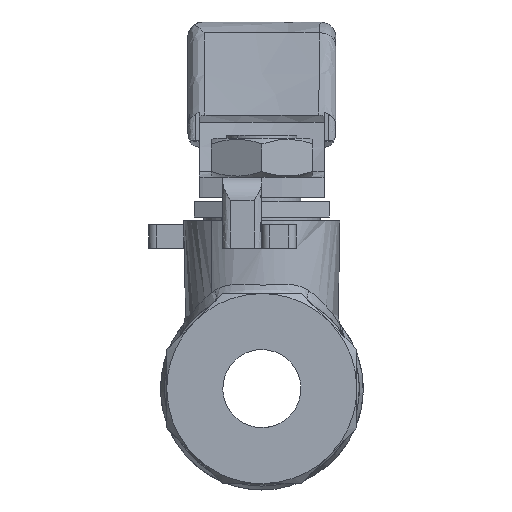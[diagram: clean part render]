
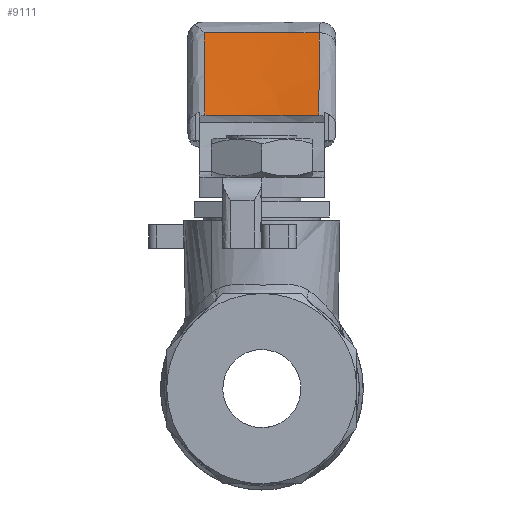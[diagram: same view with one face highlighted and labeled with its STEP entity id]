
A CAD part, left-side view. The second image highlights one B-rep face of the part: STEP entity #9111.
In plain terms, the highlighted free-form (B-spline) face has degree [1, 2] with [2, 3] control points.
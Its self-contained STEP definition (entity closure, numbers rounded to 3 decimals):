
#5013=CARTESIAN_POINT('',(28.518,7.291,35.069));
#5014=VERTEX_POINT('',#5013);
#5024=CARTESIAN_POINT('',(51.481,7.38,45.595));
#5025=VERTEX_POINT('',#5024);
#5026=CARTESIAN_POINT('',(51.481,7.38,45.595));
#5027=CARTESIAN_POINT('',(47.659,7.371,43.83));
#5028=CARTESIAN_POINT('',(43.835,7.361,42.068));
#5029=CARTESIAN_POINT('',(38.096,7.34,39.434));
#5030=CARTESIAN_POINT('',(36.182,7.333,38.557));
#5031=CARTESIAN_POINT('',(32.352,7.314,36.809));
#5032=CARTESIAN_POINT('',(30.436,7.304,35.937));
#5033=CARTESIAN_POINT('',(28.518,7.291,35.069));
#5034=B_SPLINE_CURVE_WITH_KNOTS('',3,(#5026,#5027,#5028,#5029,#5030,#5031,#5032,#5033),.UNSPECIFIED.,.F.,.U.,(4,2,2,4),(0.,0.5,0.75,1.),.UNSPECIFIED.);
#5035=EDGE_CURVE('',#5025,#5014,#5034,.T.);
#5810=CARTESIAN_POINT('',(51.481,-7.38,45.595));
#5811=VERTEX_POINT('',#5810);
#5962=CARTESIAN_POINT('',(28.518,-7.291,35.069));
#5963=VERTEX_POINT('',#5962);
#5964=CARTESIAN_POINT('',(28.518,-7.291,35.069));
#5965=CARTESIAN_POINT('',(30.436,-7.304,35.937));
#5966=CARTESIAN_POINT('',(32.352,-7.314,36.809));
#5967=CARTESIAN_POINT('',(36.182,-7.333,38.557));
#5968=CARTESIAN_POINT('',(38.096,-7.34,39.434));
#5969=CARTESIAN_POINT('',(43.835,-7.361,42.068));
#5970=CARTESIAN_POINT('',(47.659,-7.371,43.83));
#5971=CARTESIAN_POINT('',(51.481,-7.38,45.595));
#5972=B_SPLINE_CURVE_WITH_KNOTS('',3,(#5964,#5965,#5966,#5967,#5968,#5969,#5970,#5971),.UNSPECIFIED.,.F.,.U.,(4,2,2,4),(0.,0.25,0.5,1.),.UNSPECIFIED.);
#5973=EDGE_CURVE('',#5963,#5811,#5972,.T.);
#9076=CARTESIAN_POINT('',(27.786,7.839,34.806));
#9077=CARTESIAN_POINT('',(50.61,14.278,45.864));
#9078=CARTESIAN_POINT('',(29.998,-0.001,34.806));
#9079=CARTESIAN_POINT('',(54.639,-0.001,45.864));
#9080=CARTESIAN_POINT('',(27.786,-7.84,34.806));
#9081=CARTESIAN_POINT('',(50.61,-14.28,45.864));
#9089=(BOUNDED_SURFACE()B_SPLINE_SURFACE(1,2,((#9076,#9078,#9080),(#9077,#9079,#9081)),.UNSPECIFIED.,.F.,.F.,.U.)B_SPLINE_SURFACE_WITH_KNOTS((2,2),(3,3),(0.,26.167),(0.,29.105),.UNSPECIFIED.)GEOMETRIC_REPRESENTATION_ITEM()RATIONAL_B_SPLINE_SURFACE(((0.998,0.959,0.996),(0.998,0.959,0.996)))REPRESENTATION_ITEM('')SURFACE());
#9090=CARTESIAN_POINT('',(51.481,7.38,45.595));
#9091=CARTESIAN_POINT('',(51.93,4.25,45.595));
#9092=CARTESIAN_POINT('',(52.183,-0.701,45.595));
#9093=CARTESIAN_POINT('',(51.733,-5.624,45.595));
#9094=CARTESIAN_POINT('',(51.481,-7.38,45.595));
#9095=B_SPLINE_CURVE_WITH_KNOTS('',3,(#9090,#9091,#9092,#9093,#9094),.UNSPECIFIED.,.F.,.U.,(4,1,4),(0.,9.488,14.81),.UNSPECIFIED.);
#9096=EDGE_CURVE('',#5025,#5811,#9095,.T.);
#9097=ORIENTED_EDGE('',*,*,#9096,.F.);
#9098=ORIENTED_EDGE('',*,*,#5035,.T.);
#9099=CARTESIAN_POINT('',(28.518,7.291,35.069));
#9100=CARTESIAN_POINT('',(28.993,5.432,35.069));
#9101=CARTESIAN_POINT('',(29.473,2.307,35.069));
#9102=CARTESIAN_POINT('',(29.435,-2.614,35.069));
#9103=CARTESIAN_POINT('',(28.955,-5.581,35.069));
#9104=CARTESIAN_POINT('',(28.518,-7.291,35.069));
#9105=B_SPLINE_CURVE_WITH_KNOTS('',3,(#9099,#9100,#9101,#9102,#9103,#9104),.UNSPECIFIED.,.F.,.U.,(4,1,1,4),(0.,5.756,9.439,14.735),.UNSPECIFIED.);
#9106=EDGE_CURVE('',#5014,#5963,#9105,.T.);
#9107=ORIENTED_EDGE('',*,*,#9106,.T.);
#9108=ORIENTED_EDGE('',*,*,#5973,.T.);
#9109=EDGE_LOOP('',(#9097,#9098,#9107,#9108));
#9110=FACE_OUTER_BOUND('',#9109,.T.);
#9111=ADVANCED_FACE('',(#9110),#9089,.F.);
